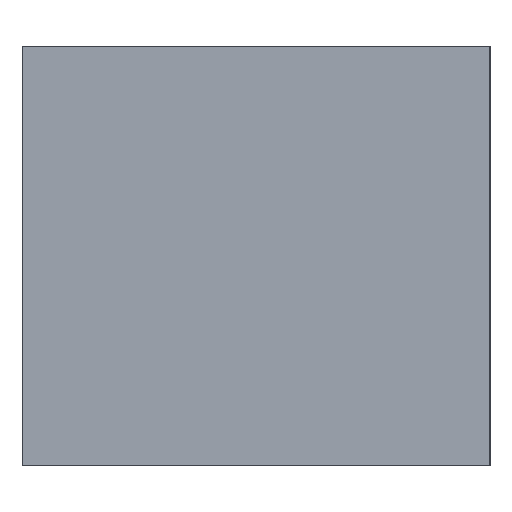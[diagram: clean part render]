
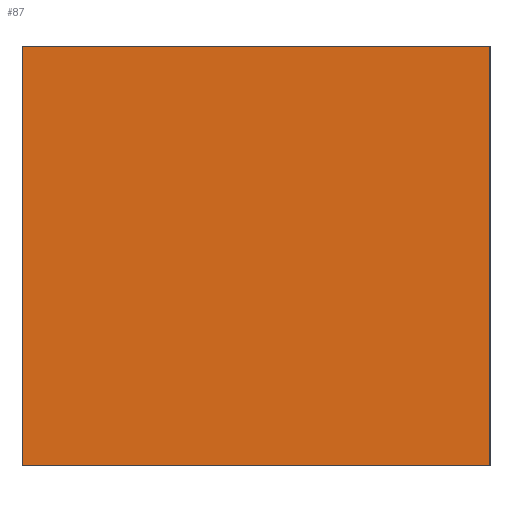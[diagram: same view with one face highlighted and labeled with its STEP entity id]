
A CAD part, left-side view. The second image highlights one B-rep face of the part: STEP entity #87.
In plain terms, the highlighted planar face has unit normal (-1, 0, 0).
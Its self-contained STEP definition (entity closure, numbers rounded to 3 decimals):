
#87 = ADVANCED_FACE( '', ( #118 ), #119, .T. );
#118 = FACE_OUTER_BOUND( '', #152, .T. );
#119 = PLANE( '', #153 );
#152 = EDGE_LOOP( '', ( #244, #245, #246, #247 ) );
#153 = AXIS2_PLACEMENT_3D( '', #248, #249, #250 );
#244 = ORIENTED_EDGE( '', *, *, #311, .T. );
#245 = ORIENTED_EDGE( '', *, *, #312, .F. );
#246 = ORIENTED_EDGE( '', *, *, #313, .F. );
#247 = ORIENTED_EDGE( '', *, *, #309, .T. );
#248 = CARTESIAN_POINT( '', ( -5., 0., 13. ) );
#249 = DIRECTION( '', ( -1., 0., 0. ) );
#250 = DIRECTION( '', ( 0., 1., 0. ) );
#309 = EDGE_CURVE( '', #366, #364, #367, .T. );
#311 = EDGE_CURVE( '', #364, #369, #370, .T. );
#312 = EDGE_CURVE( '', #371, #369, #372, .T. );
#313 = EDGE_CURVE( '', #366, #371, #373, .T. );
#364 = VERTEX_POINT( '', #444 );
#366 = VERTEX_POINT( '', #447 );
#367 = LINE( '', #448, #449 );
#369 = VERTEX_POINT( '', #452 );
#370 = LINE( '', #453, #454 );
#371 = VERTEX_POINT( '', #455 );
#372 = LINE( '', #456, #457 );
#373 = LINE( '', #458, #459 );
#444 = CARTESIAN_POINT( '', ( -5., 0., -13. ) );
#447 = CARTESIAN_POINT( '', ( -5., 0., 13. ) );
#448 = CARTESIAN_POINT( '', ( -5., 0., 13. ) );
#449 = VECTOR( '', #509, 1. );
#452 = CARTESIAN_POINT( '', ( -5., -29., -13. ) );
#453 = CARTESIAN_POINT( '', ( -5., 0., -13. ) );
#454 = VECTOR( '', #511, 1. );
#455 = CARTESIAN_POINT( '', ( -5., -29., 13. ) );
#456 = CARTESIAN_POINT( '', ( -5., -29., 13. ) );
#457 = VECTOR( '', #512, 1. );
#458 = CARTESIAN_POINT( '', ( -5., 0., 13. ) );
#459 = VECTOR( '', #513, 1. );
#509 = DIRECTION( '', ( 0., 0., -1. ) );
#511 = DIRECTION( '', ( 0., -1., 0. ) );
#512 = DIRECTION( '', ( 0., 0., -1. ) );
#513 = DIRECTION( '', ( 0., -1., 0. ) );
